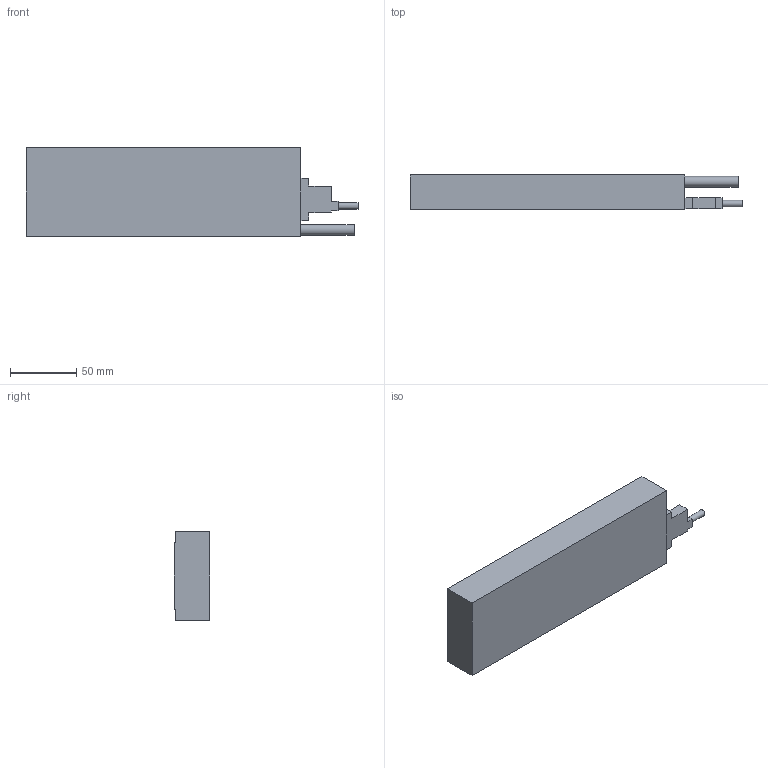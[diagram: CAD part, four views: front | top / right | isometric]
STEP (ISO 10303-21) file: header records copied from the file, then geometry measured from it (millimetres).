
FILE_DESCRIPTION(/* description */ ('STEP AP242 Edition 2','CAx-IF Rec.Pracs.---Representation and Presentation of Product Manufacturing Information (PMI)---4.0---2014-10-13','CAx-IF Rec.Pracs.---3D Tessellated Geometry---0.4---2014-09-14','2;1','CAx-IF Rec.Pracs.---User Defined Attributes---1.5---2016-08-15'),/* implementation_level */ '2;1');
FILE_NAME(/* name */ 'CM30S (2)',/* time_stamp */ '2026-04-13T00:44:16Z',/* author */ (''),/* organization */ (''),/* preprocessor_version */ 'ST-DEVELOPER v20',/* originating_system */ 'ONSHAPE BY PTC INC, 1.213',/* authorisation */ ' ');
FILE_SCHEMA (('AP242_MANAGED_MODEL_BASED_3D_ENGINEERING_MIM_LF { 1 0 10303 442 3 1 4 }'));
Length unit declared in the file: metre
Products named in the file (1): CM30S
Bounding box: 250 x 26.5 x 67 mm (x, y, z)
Volume: 370594.8 mm3; surface area: 47211.3 mm2
Topology: 1 solids, 2 shells, 72 faces, 176 edges, 113 vertices
Faces by surface type: plane 35, cylinder 23, cone 14
Full cylindrical faces by diameter (mm): 2.5 x2, 3.4 x2, 4.2 x12, 4.9 x2, 8 x1
Entity records: 1870 total; most frequent: DIRECTION 320, CARTESIAN_POINT 311, ORIENTED_EDGE 254, EDGE_CURVE 127, FACE_BOUND 124, AXIS2_PLACEMENT_3D 120, VERTEX_POINT 111, EDGE_LOOP 110
